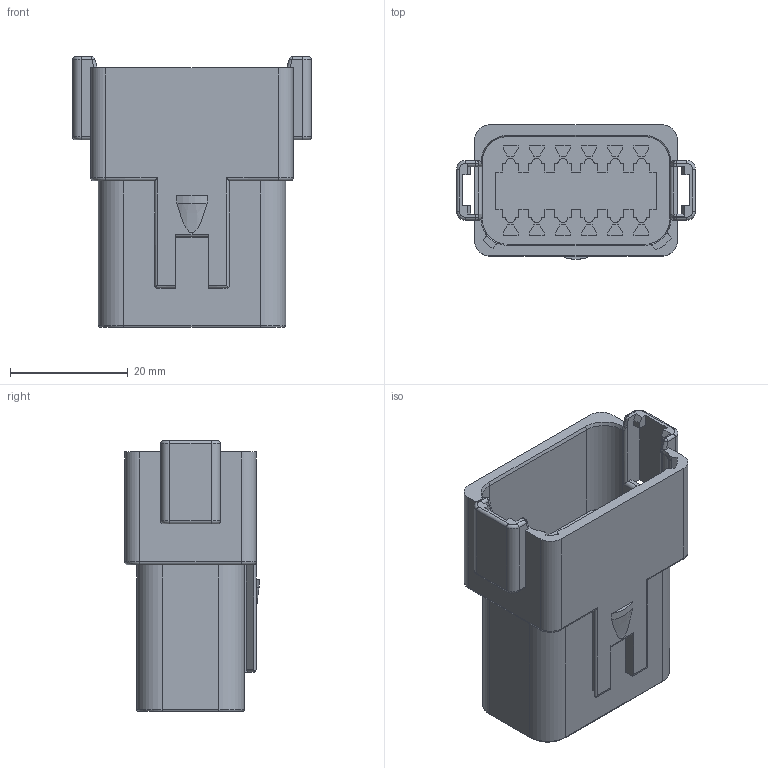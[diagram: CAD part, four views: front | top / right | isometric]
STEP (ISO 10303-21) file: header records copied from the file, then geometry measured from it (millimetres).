
FILE_DESCRIPTION((''),'2;1');
FILE_NAME('C-DT04-12PA','2013-10-21T',('workeradm'),('Tyco Electronics Ltd.'),'PRO/ENGINEER BY PARAMETRIC TECHNOLOGY CORPORATION, 2013050','PRO/ENGINEER BY PARAMETRIC TECHNOLOGY CORPORATION, 2013050','');
FILE_SCHEMA(('AUTOMOTIVE_DESIGN { 1 0 10303 214 1 1 1 1 }'));
Length unit declared in the file: millimetre
Products named in the file (1): C-DT04-12PA
Bounding box: 40.56 x 22.76 x 45.92 mm (x, y, z)
Volume: 18040.6 mm3; surface area: 8760.6 mm2
Topology: 1 solids, 1 shells, 565 faces, 1477 edges, 955 vertices
Faces by surface type: plane 368, cylinder 135, torus 43, sphere 8, cone 7, bspline 4
Entity records: 18583 total; most frequent: CARTESIAN_POINT 4324, ORIENTED_EDGE 2954, DIRECTION 2876, EDGE_CURVE 1477, VECTOR 1108, LINE 1108, VERTEX_POINT 955, AXIS2_PLACEMENT_3D 884
